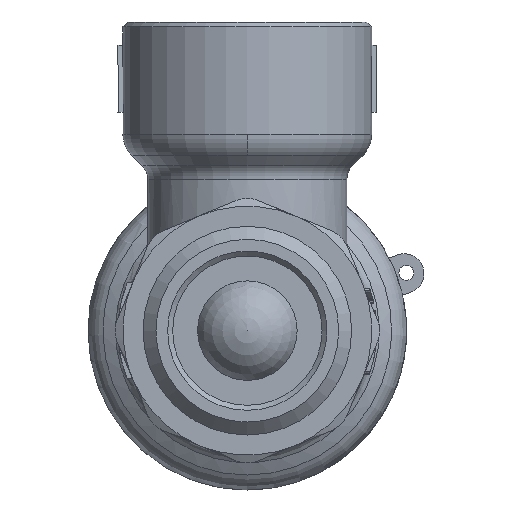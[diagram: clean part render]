
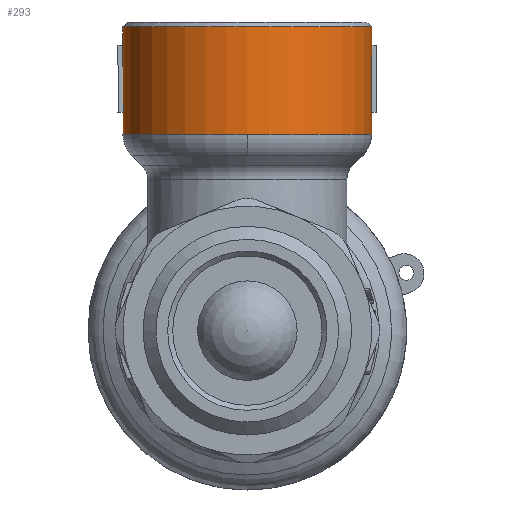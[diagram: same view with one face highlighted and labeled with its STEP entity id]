
A CAD part, front view. The second image highlights one B-rep face of the part: STEP entity #293.
In plain terms, the highlighted cylindrical face has radius 12.5 mm (diameter 25 mm), a full revolution.
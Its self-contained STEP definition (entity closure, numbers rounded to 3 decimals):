
#293=ADVANCED_FACE('',(#2730,#2732,#2734,#2736),#2738,.T.);
#2730=FACE_OUTER_BOUND('',#2731,.T.);
#2731=EDGE_LOOP('',(#8432));
#2732=FACE_BOUND('',#2733,.T.);
#2733=EDGE_LOOP('',(#8433,#8434));
#2734=FACE_BOUND('',#2735,.T.);
#2735=EDGE_LOOP('',(#8435,#8436,#8437));
#2736=FACE_BOUND('',#2737,.T.);
#2737=EDGE_LOOP('',(#8438,#8439,#8440));
#2738=CYLINDRICAL_SURFACE('',#2739,12.5);
#2739=AXIS2_PLACEMENT_3D('',#2740,#2741,#2742);
#2740=CARTESIAN_POINT('',(0.,0.,18.5));
#2741=DIRECTION('',(0.,0.,1.));
#2742=DIRECTION('',(0.,-1.,0.));
#8432=ORIENTED_EDGE('',*,*,#13461,.F.);
#8433=ORIENTED_EDGE('',*,*,#13372,.F.);
#8434=ORIENTED_EDGE('',*,*,#13375,.F.);
#8435=ORIENTED_EDGE('',*,*,#13462,.F.);
#8436=ORIENTED_EDGE('',*,*,#13463,.F.);
#8437=ORIENTED_EDGE('',*,*,#13464,.F.);
#8438=ORIENTED_EDGE('',*,*,#13465,.F.);
#8439=ORIENTED_EDGE('',*,*,#13466,.F.);
#8440=ORIENTED_EDGE('',*,*,#13467,.F.);
#13372=EDGE_CURVE('',#16221,#16222,#16223,.T.);
#13375=EDGE_CURVE('',#16222,#16221,#16226,.T.);
#13461=EDGE_CURVE('',#16390,#16390,#16391,.T.);
#13462=EDGE_CURVE('',#16392,#16393,#16394,.F.);
#13463=EDGE_CURVE('',#16395,#16392,#16396,.T.);
#13464=EDGE_CURVE('',#16393,#16395,#16397,.F.);
#13465=EDGE_CURVE('',#16398,#16399,#16400,.F.);
#13466=EDGE_CURVE('',#16401,#16398,#16402,.F.);
#13467=EDGE_CURVE('',#16399,#16401,#16403,.T.);
#16221=VERTEX_POINT('',#23096);
#16222=VERTEX_POINT('',#23097);
#16223=CIRCLE('',#23098,12.5);
#16226=CIRCLE('',#23110,12.5);
#16390=VERTEX_POINT('',#24046);
#16391=CIRCLE('',#24047,12.5);
#16392=VERTEX_POINT('',#24051);
#16393=VERTEX_POINT('',#24052);
#16394=(BOUNDED_CURVE()B_SPLINE_CURVE(3,
(#24053,#24054,#24055,#24056),
.UNSPECIFIED.,.F.,.F.)B_SPLINE_CURVE_WITH_KNOTS((4,4),
(0.,1.),
.UNSPECIFIED.)CURVE()GEOMETRIC_REPRESENTATION_ITEM()RATIONAL_B_SPLINE_CURVE((1.,
0.999,0.999,1.))REPRESENTATION_ITEM(''));
#16395=VERTEX_POINT('',#24057);
#16396=CIRCLE('',#24058,12.5);
#16397=(BOUNDED_CURVE()B_SPLINE_CURVE(3,
(#24062,#24063,#24064,#24065),
.UNSPECIFIED.,.F.,.F.)B_SPLINE_CURVE_WITH_KNOTS((4,4),
(0.,1.),
.UNSPECIFIED.)CURVE()GEOMETRIC_REPRESENTATION_ITEM()RATIONAL_B_SPLINE_CURVE((1.,
0.999,0.999,1.))REPRESENTATION_ITEM(''));
#16398=VERTEX_POINT('',#24066);
#16399=VERTEX_POINT('',#24067);
#16400=(BOUNDED_CURVE()B_SPLINE_CURVE(3,
(#24068,#24069,#24070,#24071),
.UNSPECIFIED.,.F.,.F.)B_SPLINE_CURVE_WITH_KNOTS((4,4),
(0.,1.),
.UNSPECIFIED.)CURVE()GEOMETRIC_REPRESENTATION_ITEM()RATIONAL_B_SPLINE_CURVE((1.,
0.999,0.999,1.))REPRESENTATION_ITEM(''));
#16401=VERTEX_POINT('',#24072);
#16402=(BOUNDED_CURVE()B_SPLINE_CURVE(3,
(#24073,#24074,#24075,#24076),
.UNSPECIFIED.,.F.,.F.)B_SPLINE_CURVE_WITH_KNOTS((4,4),
(0.,1.),
.UNSPECIFIED.)CURVE()GEOMETRIC_REPRESENTATION_ITEM()RATIONAL_B_SPLINE_CURVE((1.,
0.999,0.999,1.))REPRESENTATION_ITEM(''));
#16403=CIRCLE('',#24077,12.5);
#23096=CARTESIAN_POINT('',(-12.5,0.,19.743));
#23097=CARTESIAN_POINT('',(0.,-12.5,19.743));
#23098=AXIS2_PLACEMENT_3D('',#23099,#23100,#23101);
#23099=CARTESIAN_POINT('',(0.,0.,19.743));
#23100=DIRECTION('',(0.,0.,-1.));
#23101=DIRECTION('',(-1.,0.,0.));
#23110=AXIS2_PLACEMENT_3D('',#23111,#23112,#23113);
#23111=CARTESIAN_POINT('',(0.,0.,19.743));
#23112=DIRECTION('',(0.,0.,-1.));
#23113=DIRECTION('',(0.,-1.,0.));
#24046=CARTESIAN_POINT('',(0.,-12.5,30.5));
#24047=AXIS2_PLACEMENT_3D('',#24048,#24049,#24050);
#24048=CARTESIAN_POINT('',(0.,0.,30.5));
#24049=DIRECTION('',(0.,0.,1.));
#24050=DIRECTION('',(0.,-1.,0.));
#24051=CARTESIAN_POINT('',(12.46,1.,21.928));
#24052=CARTESIAN_POINT('',(12.5,0.,28.685));
#24053=CARTESIAN_POINT('',(12.5,0.,28.685));
#24054=CARTESIAN_POINT('',(12.5,0.334,26.43));
#24055=CARTESIAN_POINT('',(12.487,0.667,24.176));
#24056=CARTESIAN_POINT('',(12.46,1.,21.928));
#24057=CARTESIAN_POINT('',(12.46,-1.,21.928));
#24058=AXIS2_PLACEMENT_3D('',#24059,#24060,#24061);
#24059=CARTESIAN_POINT('',(0.,0.,21.928));
#24060=DIRECTION('',(0.,0.,1.));
#24061=DIRECTION('',(0.997,-0.08,0.));
#24062=CARTESIAN_POINT('',(12.46,-1.,21.928));
#24063=CARTESIAN_POINT('',(12.487,-0.667,24.176));
#24064=CARTESIAN_POINT('',(12.5,-0.334,26.43));
#24065=CARTESIAN_POINT('',(12.5,0.,28.685));
#24066=CARTESIAN_POINT('',(-12.5,0.,28.685));
#24067=CARTESIAN_POINT('',(-12.46,1.,21.928));
#24068=CARTESIAN_POINT('',(-12.46,1.,21.928));
#24069=CARTESIAN_POINT('',(-12.487,0.667,24.176));
#24070=CARTESIAN_POINT('',(-12.5,0.334,26.43));
#24071=CARTESIAN_POINT('',(-12.5,0.,28.685));
#24072=CARTESIAN_POINT('',(-12.46,-1.,21.928));
#24073=CARTESIAN_POINT('',(-12.5,0.,28.685));
#24074=CARTESIAN_POINT('',(-12.5,-0.334,26.43));
#24075=CARTESIAN_POINT('',(-12.487,-0.667,24.176));
#24076=CARTESIAN_POINT('',(-12.46,-1.,21.928));
#24077=AXIS2_PLACEMENT_3D('',#24078,#24079,#24080);
#24078=CARTESIAN_POINT('',(0.,0.,21.928));
#24079=DIRECTION('',(0.,0.,1.));
#24080=DIRECTION('',(-0.997,0.08,0.));
